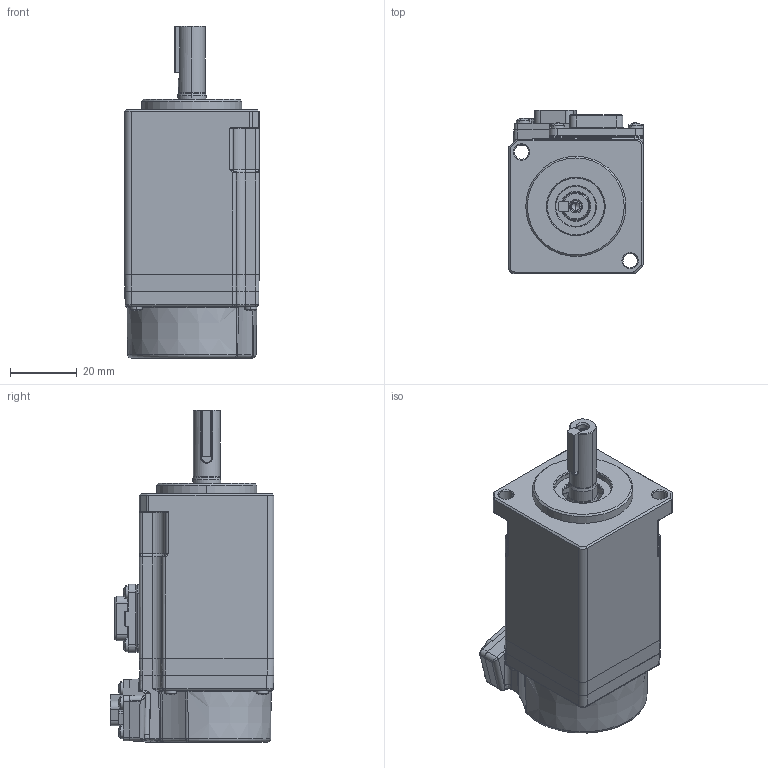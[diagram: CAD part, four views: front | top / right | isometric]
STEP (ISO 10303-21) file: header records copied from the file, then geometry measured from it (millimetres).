
FILE_DESCRIPTION (( 'STEP AP214' ), '1' );
FILE_NAME ('40法兰-100W-无油封无制动器(RSA1-H040A01B30N).STEP', '2024-09-06T08:32:59', ( '' ), ( '' ), 'SwSTEP 2.0', 'SolidWorks 2020', '' );
FILE_SCHEMA (( 'AUTOMOTIVE_DESIGN' ));
Length unit declared in the file: millimetre
Products named in the file (10): 苤萇儂晤鎢傷赽; 3231000001_勾板螺丝型6pin连接器插座_GAMC3064_无制动器线; 3114000001_十字槽盘头自挤螺钉_M2x5(GBT6560-2014 锌镍合金 黑色); 2174000006_綴傷裔禱矗_RSA1-H040A01B30S36; 2181000007_綴裔_RSA1-H040A01B30S36; 40-100W儂褲-拸蚐猾; 3112000005_十字槽小盘头螺钉_M2x8(GBT823-2000 锌镍合金 黑色 耐落）; 2151000018_粣_RSA1-H040A01B30S36; 3130000003_す瑩_B3x3x14(GBT1096-2003); 40法兰-100W-无油封无制动器(RSA1-H040A01B30N)
Assembly tree (19 placements, depth 2):
  40法兰-100W-无油封无制动器(RSA1-H040A01B30N)
    40-100W儂褲-拸蚐猾
    2174000006_綴傷裔禱矗_RSA1-H040A01B30S36
    2181000007_綴裔_RSA1-H040A01B30S36
    3231000001_勾板螺丝型6pin连接器插座_GAMC3064_无制动器线
    苤萇儂晤鎢傷赽
    2151000018_粣_RSA1-H040A01B30S36
    3130000003_す瑩_B3x3x14(GBT1096-2003)
    3112000005_十字槽小盘头螺钉_M2x8(GBT823-2000 锌镍合金 黑色 耐落）  x4
    3114000001_十字槽盘头自挤螺钉_M2x5(GBT6560-2014 锌镍合金 黑色)  x8
Bounding box: 40.4 x 49.1 x 99.4 mm (x, y, z)
Volume: 46252.9 mm3; surface area: 36857.9 mm2
Topology: 21 solids, 21 shells, 3327 faces, 8961 edges, 5777 vertices
Faces by surface type: plane 1699, cylinder 626, bspline 607, cone 215, torus 150, sphere 30
Entity records: 128188 total; most frequent: CARTESIAN_POINT 47194, ORIENTED_EDGE 16068, DIRECTION 12639, EDGE_CURVE 8034, VERTEX_POINT 5189, LINE 4877, VECTOR 4877, AXIS2_PLACEMENT_3D 3881
